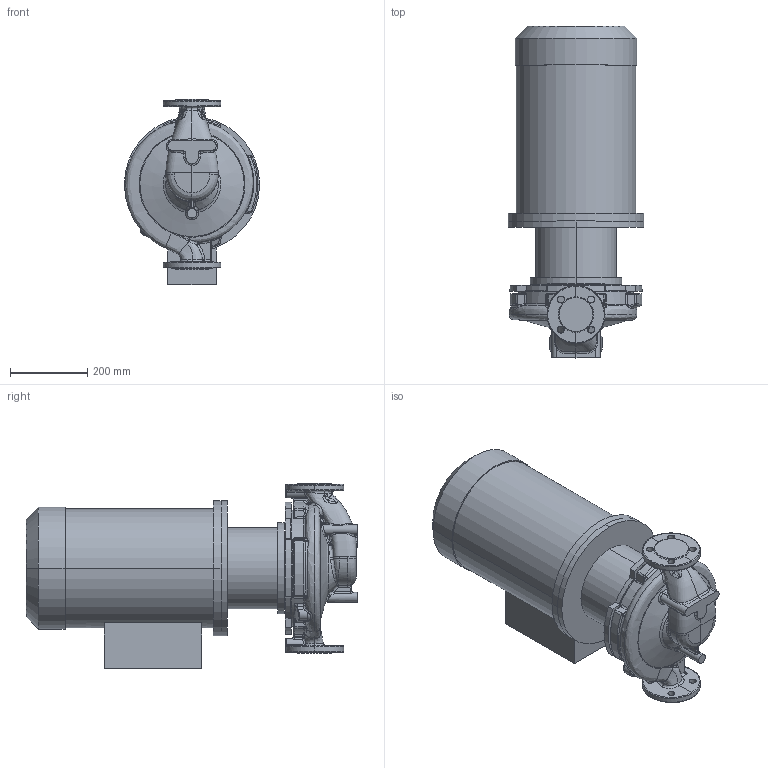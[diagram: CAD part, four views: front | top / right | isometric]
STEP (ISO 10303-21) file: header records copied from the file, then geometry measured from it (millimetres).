
FILE_DESCRIPTION (( 'STEP AP214' ), '1' );
FILE_NAME ('KRL 40-250-2-11.STEP', '2026-03-19T09:47:01', ( '' ), ( '' ), 'SwSTEP 2.0', 'SolidWorks 2016', '' );
FILE_SCHEMA (( 'AUTOMOTIVE_DESIGN' ));
Length unit declared in the file: millimetre
Products named in the file (1): KRL 40-250-2-11
Bounding box: 350 x 859.3 x 480 mm (x, y, z)
Volume: 59802227.5 mm3; surface area: 1736528.1 mm2
Topology: 4 solids, 4 shells, 661 faces, 1579 edges, 926 vertices
Faces by surface type: bspline 316, cylinder 130, plane 95, sphere 44, cone 42, torus 34
Entity records: 67064 total; most frequent: CARTESIAN_POINT 47170, ORIENTED_EDGE 3120, DIRECTION 1982, EDGE_CURVE 1560, VERTEX_POINT 926, AXIS2_PLACEMENT_3D 870, EDGE_LOOP 696, UNCERTAINTY_MEASURE_WITH_UNIT 667
